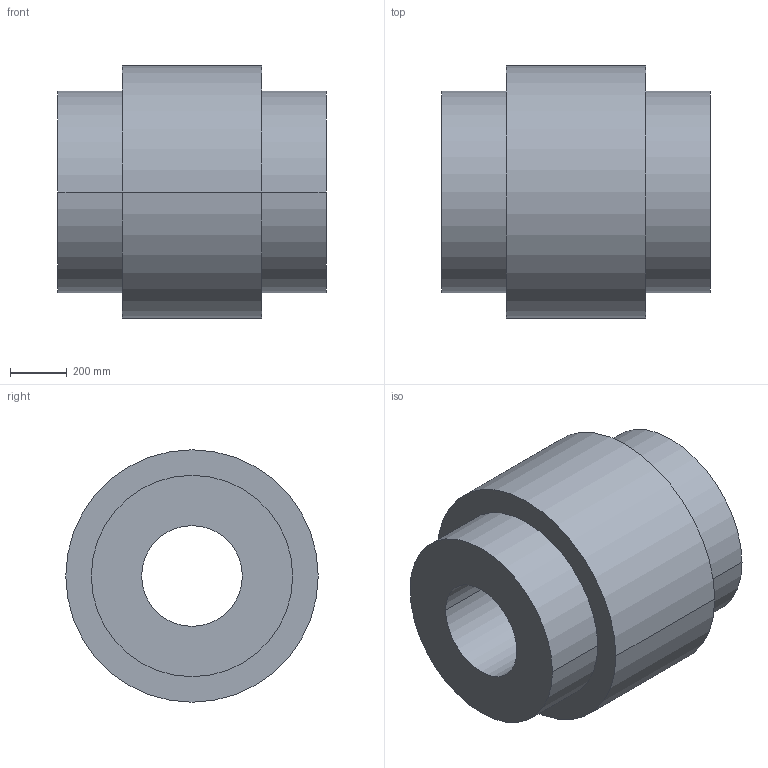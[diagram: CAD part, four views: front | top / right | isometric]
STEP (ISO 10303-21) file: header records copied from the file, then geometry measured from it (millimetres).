
FILE_DESCRIPTION((''),'2;1');
FILE_NAME('A19135000-0_ASM','2018-11-15T',('AB_Roschiwal'),('RENK AG'),'PRO/ENGINEER BY PARAMETRIC TECHNOLOGY CORPORATION, 2015440','PRO/ENGINEER BY PARAMETRIC TECHNOLOGY CORPORATION, 2015440','');
FILE_SCHEMA(('CONFIG_CONTROL_DESIGN'));
Length unit declared in the file: millimetre
Products named in the file (3): HBK425_GEHAEUSE; HBK425_NABE; A19135000-0_ASM
Assembly tree (3 placements, depth 2):
  A19135000-0_ASM
    HBK425_GEHAEUSE
    HBK425_NABE  x2
Bounding box: 945 x 890 x 890 mm (x, y, z)
Volume: 352192327.7 mm3; surface area: 8003563.9 mm2
Topology: 3 solids, 3 shells, 36 faces, 72 edges, 48 vertices
Faces by surface type: cylinder 24, plane 12
Entity records: 748 total; most frequent: DIRECTION 140, CARTESIAN_POINT 110, ORIENTED_EDGE 96, AXIS2_PLACEMENT_3D 62, EDGE_CURVE 48, VERTEX_POINT 32, EDGE_LOOP 32, CIRCLE 32
